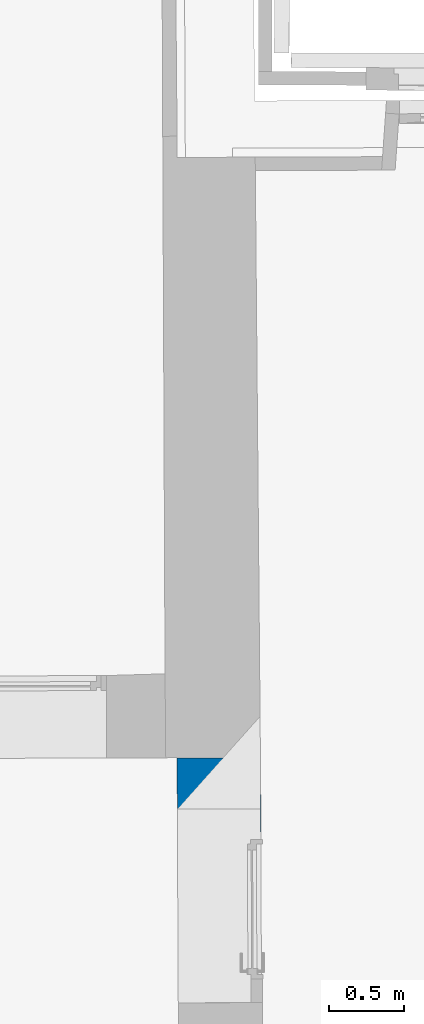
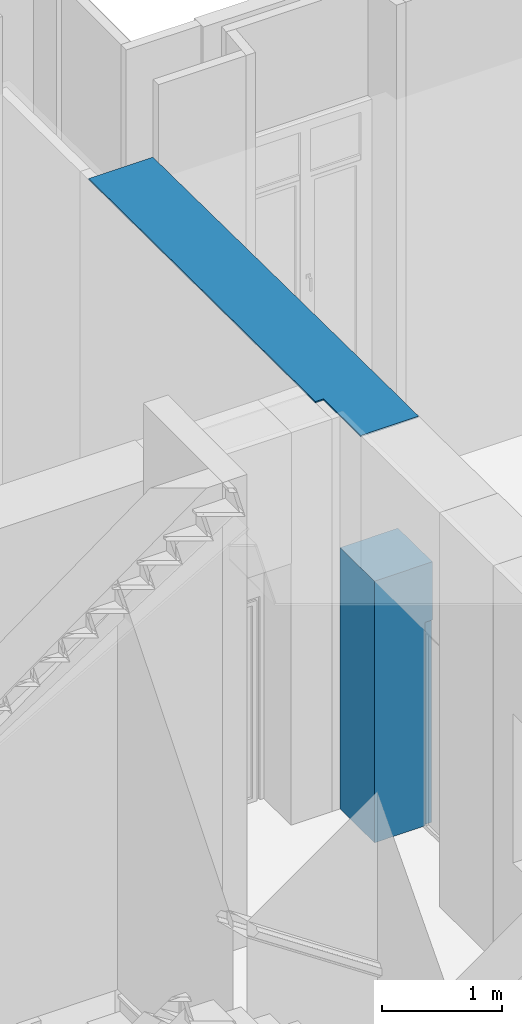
# One storey, part 51 of 97: 1 wall.
"""IFC2X3 building model written with IfcOpenShell, lengths in centimetres."""

from ifc_helpers import new_model, entity, si_unit, converted_unit, direction, frame, origin, origin_with_axes, place, context, subcontext, project, spatial, faceted_brep, material, layer, layer_set, layer_usage, type_object, element, save


model = new_model("IFC2X3")

# Units and contexts
model_context = context("Model", 3, precision=0.0001, world=origin(), true_north=direction((0.225632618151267, 0.974212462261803, 0.0)))
body_context = subcontext(model_context, "Body", "Model", "MODEL_VIEW")
ifc_project = project(units=[si_unit("LENGTHUNIT", "METRE", prefix="CENTI"), si_unit("AREAUNIT", "SQUARE_METRE", prefix="CENTI"), si_unit("VOLUMEUNIT", "CUBIC_METRE", prefix="CENTI"), converted_unit("PLANEANGLEUNIT", "DEGREE", entity("IfcRatioMeasure", 0.0174532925), si_unit("PLANEANGLEUNIT", "RADIAN"), dimensions=[0, 0, 0, 0, 0, 0, 0])], contexts=[model_context])

# Site, building, storey
site_placement = place(None, origin_with_axes())
site = spatial("IfcSite", under=ifc_project, at=site_placement, Name="Default Site", CompositionType="ELEMENT")
building_placement = place(site_placement, origin_with_axes())
building = spatial("IfcBuilding", under=site, at=building_placement, Name="Default Building", CompositionType="ELEMENT")
storey_placement = place(building_placement, origin_with_axes())
storey = spatial("IfcBuildingStorey", under=building, at=storey_placement, Name="Rez-de-chaussée", CompositionType="ELEMENT", Elevation=0.0)

# Wall
ifc_material = material(Name="<aucun>")
ifc_layer = layer(ifc_material, 55.6)
ifc_layer_set = layer_set([ifc_layer], Name="default")
ifc_layer_usage = layer_usage(ifc_layer_set, "AXIS2", "POSITIVE", -27.8)
wall_type = type_object("IfcWallType", Name="default 556", PredefinedType="NOTDEFINED", material=ifc_layer_set)
wall_placement = place(storey_placement, frame((-688.459782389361, 95.9694775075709, 0.0128503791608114), z_axis=(0.0, 0.0, 1.0), x_axis=(-0.00871943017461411, 0.999961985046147, 0.0)))
element("IfcWall", 1, at=wall_placement, inside=storey, type_object=wall_type, material=ifc_layer_usage, Name="Enveloppe 2811", context=body_context, shape_type="Brep", body=[
    faceted_brep([(56.5258633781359, 27.8151882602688, -4.62607735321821e-10), (53.0428594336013, 27.829616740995, -4.62607735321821e-10), (53.0428594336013, 27.829616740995, 264.987159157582), (56.5258633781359, 27.8151882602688, 264.987159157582), (56.5258633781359, 27.8151882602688, 259.99999084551), (22.2299006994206, 27.9566878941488, -4.62607735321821e-10), (12.6518715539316, 27.9569996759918, -4.62607735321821e-10), (12.6518715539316, 27.9569996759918, 264.987159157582), (22.2299006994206, 27.9566878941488, 264.987159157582), (22.4779807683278, 27.9562413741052, -4.62607735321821e-10), (22.3683436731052, 27.9566955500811, -4.62607735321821e-10), (22.3683436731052, 27.9566955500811, 264.987159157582), (22.4779807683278, 27.9562413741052, 264.987159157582), (22.3683435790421, 27.95667284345, -4.62607735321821e-10), (22.2299006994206, 27.9566728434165, -4.62607735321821e-10), (22.2299006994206, 27.9566728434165, 264.987159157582), (22.3683435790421, 27.95667284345, 264.987159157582), (53.0428594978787, 27.8296322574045, -4.62607735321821e-10), (22.4779807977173, 27.9562484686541, -4.62607735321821e-10), (22.4779807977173, 27.9562484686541, 264.987159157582), (53.0428594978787, 27.8296322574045, 264.987159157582), (12.6518715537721, 27.9569947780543, -4.62607735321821e-10), (-1.93903310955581e-06, 27.9566830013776, -4.62607735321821e-10), (-1.93903310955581e-06, 27.9566830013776, 264.987159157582), (12.6518715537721, 27.9569947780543, 264.987159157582), (22.4783145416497, 27.9562384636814, 397.695351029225), (22.4374520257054, 27.9566940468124, 397.695351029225), (22.4374520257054, 27.9566940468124, 399.097180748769), (22.4783145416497, 27.9562384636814, 399.097180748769), (457.417855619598, 33.8284292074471, 397.695351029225), (112.859584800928, 35.3679993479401, 397.695351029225), (112.859584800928, 35.3679993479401, 399.097180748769), (457.417855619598, 33.8284292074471, 399.097180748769), (83.885135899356, 27.7999809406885, 397.695351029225), (60.1928434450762, 27.7999809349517, 397.695351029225), (60.1928434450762, 27.7999809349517, 399.097180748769), (83.885135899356, 27.7999809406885, 399.097180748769), (60.1928434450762, 27.7999983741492, 397.695351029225), (56.8156021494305, 27.8139887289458, 397.695351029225), (56.8156021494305, 27.8139887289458, 399.097180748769), (60.1928434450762, 27.7999983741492, 399.097180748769), (56.8156021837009, 27.8139970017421, 397.695351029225), (22.4779833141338, 27.9565397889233, 397.695351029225), (22.4779833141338, 27.9565397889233, 399.097180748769), (56.8156021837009, 27.8139970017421, 399.097180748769), (112.85958478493, 35.3679957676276, 397.695351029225), (83.8851387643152, 35.4974606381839, 397.695351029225), (83.8851387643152, 35.4974606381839, 399.097180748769), (112.85958478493, 35.3679957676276, 399.097180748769), (-2.91362456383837e-06, -20.5567113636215, 62.3843435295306), (-2.91362456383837e-06, -20.5567113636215, -4.62607735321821e-10), (1.81652209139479, -20.5637222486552, -4.62607735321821e-10), (1.81652209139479, -20.5637222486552, 62.3843435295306), (-2.91362456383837e-06, -20.5567113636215, 77.7825061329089), (1.81652209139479, -20.5637222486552, 77.7825061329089), (-2.91362456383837e-06, -20.5567113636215, 99.9871496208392), (1.81652209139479, -20.5637222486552, 99.9871496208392), (-2.91362456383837e-06, -20.5567113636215, 179.987144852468), (1.81652209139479, -20.5637222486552, 179.987144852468), (-2.91362456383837e-06, -20.5567113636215, 182.782507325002), (1.81652209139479, -20.5637222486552, 182.782507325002), (-2.91362456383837e-06, -20.5567113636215, 183.987152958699), (1.81652209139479, -20.5637222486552, 183.987152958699), (-2.91362456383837e-06, -20.5567113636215, 185.87912359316), (1.81652209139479, -20.5637222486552, 185.87912359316), (-2.91362456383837e-06, -20.5567113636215, 199.987149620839), (1.81652209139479, -20.5637222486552, 199.987149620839), (-2.91362456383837e-06, -20.5567113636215, 204.999995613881), (1.81652209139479, -20.5637222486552, 204.999995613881), (1.8165220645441, -20.5637292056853, 204.999995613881), (1.8165220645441, -20.5637292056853, 205.999994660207), (-2.94047524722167e-06, -20.5567183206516, 205.999994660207), (-2.94047524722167e-06, -20.5567183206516, 204.999995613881), (52.7822859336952, -27.799988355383, -4.62607735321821e-10), (56.5258619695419, -27.7999883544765, -4.62607735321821e-10), (56.5258619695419, -27.7999883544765, 259.99999084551), (56.5258619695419, -27.7999883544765, 264.987159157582), (52.7822859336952, -27.799988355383, 264.987159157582), (12.3907119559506, -27.7999887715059, -4.62607735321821e-10), (52.7822859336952, -27.7999887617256, -4.62607735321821e-10), (52.7822859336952, -27.7999887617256, 264.987159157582), (12.3907119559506, -27.7999887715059, 264.987159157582), (2.77786600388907e-06, -27.800000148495, 264.987159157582), (2.77786600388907e-06, -27.800000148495, 259.99999084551), (2.77786600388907e-06, -27.800000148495, 205.999994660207), (1.81652331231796, -27.8000001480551, 205.999994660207), (1.81652331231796, -27.8000001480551, -4.62607735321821e-10), (12.3907119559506, -27.8000001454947, -4.62607735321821e-10), (12.3907119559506, -27.8000001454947, 264.987159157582), (22.2230017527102, -27.6429092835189, 397.695351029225), (62.9530726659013, -27.800012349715, 397.695351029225), (62.9530726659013, -27.800012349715, 399.097180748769), (22.2230017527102, -27.6429092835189, 399.097180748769), (62.9530727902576, -27.7999801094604, 397.695351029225), (83.8851359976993, -27.799980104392, 397.695351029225), (83.8851359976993, -27.799980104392, 399.097180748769), (62.9530727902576, -27.7999801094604, 399.097180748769), (448.109003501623, -27.8000039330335, 397.695351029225), (457.109122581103, -27.8000039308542, 397.695351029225), (457.109122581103, -27.8000039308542, 399.097180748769), (448.109003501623, -27.8000039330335, 399.097180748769), (83.8851359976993, -27.8000040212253, 399.097180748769), (83.8851359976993, -27.8000040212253, 397.695351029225), (56.5258631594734, -2.95842918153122, -4.62607735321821e-10), (52.9140033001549, 0.321069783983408, -4.62607735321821e-10), (52.9140033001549, 0.321069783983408, 264.987159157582), (56.5258631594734, -2.95842918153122, 264.987159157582), (56.525863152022, 27.8151882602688, -4.62607735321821e-10), (56.525863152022, 27.8151882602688, 259.99999084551), (56.5258631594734, -2.95842918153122, 259.99999084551), (56.525863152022, 27.8151882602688, 264.987159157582), (52.7824727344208, -27.7607924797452, -4.62607735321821e-10), (12.391625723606, -27.6049629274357, -4.62607735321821e-10), (12.391625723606, -27.6049629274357, 264.987159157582), (52.7824727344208, -27.7607924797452, 264.987159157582), (56.5258619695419, -27.8000145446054, -4.62607735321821e-10), (56.5258636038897, -27.7752180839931, -4.62607735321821e-10), (56.5258636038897, -27.7752180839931, 264.987159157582), (56.5258619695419, -27.8000145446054, 264.987159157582), (56.5258619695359, -27.7752180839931, -4.62607735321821e-10), (56.5258619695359, -27.7752180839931, 259.99999084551), (56.5258619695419, -27.8000145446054, 259.99999084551), (56.5258619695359, -27.7752180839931, 264.987159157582), (1.81652331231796, -27.8000081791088, -4.62607735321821e-10), (1.81652303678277, -27.564203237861, -4.62607735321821e-10), (-1.94138587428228e-06, -27.5571853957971, 264.987159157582), (-1.94138587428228e-06, -27.5571853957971, 259.99999084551), (-1.94138587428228e-06, -27.5571853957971, 205.999994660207), (-1.94132708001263e-06, -27.800000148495, 205.999994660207), (-1.94132708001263e-06, -27.800000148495, 259.99999084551), (2.77780720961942e-06, -27.5571853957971, 264.987159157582), (2.77780720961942e-06, -27.5571853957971, 259.99999084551), (1.8165220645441, -20.5637292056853, -4.62607735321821e-10), (-1.93909894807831e-06, 27.9566856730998, -4.62607735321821e-10), (-1.93909894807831e-06, 27.9566856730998, 264.987159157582), (-2.91362456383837e-06, -20.5567113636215, 259.99999084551), (-2.91362456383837e-06, -20.5567113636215, 205.999994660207), (-2.9119294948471e-06, -27.5571853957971, 205.999994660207), (-2.9119294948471e-06, -27.5571853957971, 259.99999084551), (-1.92735209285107e-06, -20.5567113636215, -4.62607735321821e-10), (-1.92735209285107e-06, -20.5567113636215, 62.3843435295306), (-1.92735209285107e-06, -20.5567113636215, 77.7825061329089), (-1.92735209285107e-06, -20.5567113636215, 99.9871496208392), (-1.92735209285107e-06, -20.5567113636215, 179.987144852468), (-1.92735209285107e-06, -20.5567113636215, 182.782507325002), (-1.92735209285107e-06, -20.5567113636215, 183.987152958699), (-1.92735209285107e-06, -20.5567113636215, 185.87912359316), (-1.92735209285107e-06, -20.5567113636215, 199.987149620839), (-1.92735209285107e-06, -20.5567113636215, 204.999995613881), (-1.92735209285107e-06, -20.5567113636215, 205.999994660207), (-1.92735209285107e-06, -20.5567113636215, 259.99999084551), (-1.9256570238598e-06, -27.5571853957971, 259.99999084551), (-1.9256570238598e-06, -27.5571853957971, 264.987159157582), (56.5258635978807, -2.95842918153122, -4.62607735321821e-10), (56.5258635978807, -2.95842918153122, 259.99999084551), (56.5258636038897, -27.7752180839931, 259.99999084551), (56.5258635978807, -2.95842918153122, 264.987159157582), (22.4374519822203, 27.9566901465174, 397.695351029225), (83.8851359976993, -27.8000101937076, 397.695351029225), (83.8851359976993, -27.8000101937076, 399.097180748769), (22.4374519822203, 27.9566901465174, 399.097180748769), (22.2229945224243, -27.6429092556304, 397.695351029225), (22.2229945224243, -27.6429092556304, 399.097180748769), (457.109122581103, -27.7999924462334, 397.695351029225), (22.4779807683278, 27.9562413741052, 397.695351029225), (83.8851305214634, 35.3680081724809, 397.695351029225), (83.8851305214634, 35.3680081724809, 399.097180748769), (22.4779832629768, 27.9565274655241, 399.097180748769), (457.109122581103, -27.7999924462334, 399.097180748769), (83.885138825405, 35.4974743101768, 397.695351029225), (83.885138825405, 35.4974743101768, 399.097180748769), (1.81652331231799, -27.8000081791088, 205.999994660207), (1.81652331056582, -20.5637292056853, 205.999994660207), (1.81652331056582, -20.5637292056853, 204.999995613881), (1.81652331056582, -20.5637292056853, 199.987149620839), (1.81652331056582, -20.5637292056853, 185.87912359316), (1.81652331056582, -20.5637292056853, 183.987152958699), (1.81652331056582, -20.5637292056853, 182.782507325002), (1.81652331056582, -20.5637292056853, 179.987144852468), (1.81652331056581, -20.5637292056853, 99.9871496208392), (1.81652331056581, -20.5637292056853, 77.7825061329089), (1.8165233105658, -20.5637292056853, 62.3843435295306), (1.8165233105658, -20.5637292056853, -4.62607735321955e-10), (1.81652331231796, -27.8000081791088, 205.999994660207), (83.8851305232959, 27.7999809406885, 397.695351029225), (83.8851305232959, 27.7999809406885, 399.097180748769), (83.8851388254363, 35.3680081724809, 397.695351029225), (83.8851388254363, 35.3680081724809, 399.097180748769), (457.369968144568, 24.2710456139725, 397.695351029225), (457.417845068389, 33.8284292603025, 397.695351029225), (457.417845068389, 33.8284292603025, 399.097180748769)], [[[0, 1, 2, 3, 4]], [[5, 6, 7, 8]], [[9, 10, 11, 12]], [[13, 14, 15, 16]], [[17, 18, 19, 20]], [[21, 22, 23, 24]], [[25, 26, 27, 28]], [[29, 30, 31, 32]], [[33, 34, 35, 36]], [[37, 38, 39, 40]], [[41, 42, 43, 44]], [[45, 46, 47, 48]], [[49, 50, 51, 52]], [[53, 49, 52, 54]], [[55, 53, 54, 56]], [[57, 55, 56, 58]], [[59, 57, 58, 60]], [[61, 59, 60, 62]], [[63, 61, 62, 64]], [[65, 63, 64, 66]], [[67, 65, 66, 68]], [[69, 70, 71, 72]], [[73, 74, 75, 76, 77]], [[78, 79, 80, 81]], [[82, 83, 84, 85, 86, 87, 88]], [[89, 90, 91, 92]], [[93, 94, 95, 96]], [[97, 98, 99, 100]], [[100, 101, 102, 97]], [[0, 103, 104, 17]], [[20, 105, 106, 3]], [[103, 107, 108, 109]], [[109, 108, 110, 106]], [[13, 9, 104, 111, 112, 21, 5]], [[8, 24, 113, 114, 105, 12, 16]], [[115, 73, 111, 116]], [[117, 114, 77, 118]], [[115, 119, 120, 121]], [[121, 120, 122, 118]], [[73, 78, 112, 111]], [[114, 113, 81, 77]], [[17, 104, 9]], [[12, 105, 20]], [[78, 123, 124, 112]], [[81, 113, 125, 82]], [[126, 127, 128, 129]], [[82, 130, 131, 83]], [[112, 124, 132, 50, 133, 21]], [[113, 24, 134, 125]], [[135, 136, 137, 138]], [[134, 133, 139, 140, 141, 142, 143, 144, 145, 146, 147, 148, 149, 150, 151, 152]], [[103, 116, 111, 104]], [[105, 114, 117, 106]], [[116, 153, 154, 155]], [[155, 154, 156, 117]], [[157, 25, 158, 93, 89]], [[92, 96, 159, 28, 160]], [[157, 161, 162, 160]], [[163, 97, 158, 164, 41, 37, 33, 165, 45, 29]], [[32, 48, 166, 36, 40, 44, 167, 159, 100, 168]], [[165, 169, 45]], [[48, 170, 166]], [[123, 171, 172, 173, 174, 175, 176, 177, 178, 179, 180, 181, 182]], [[136, 70, 183, 84]], [[165, 184, 185, 166]], [[169, 186, 187, 170]], [[163, 188, 189, 190, 168]]]),
])

save(model, "model.ifc")
